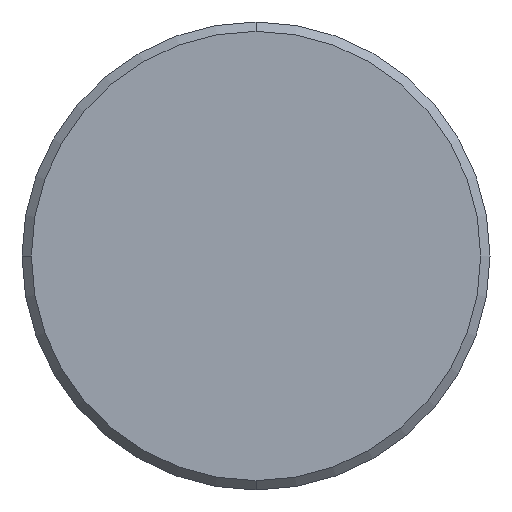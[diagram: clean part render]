
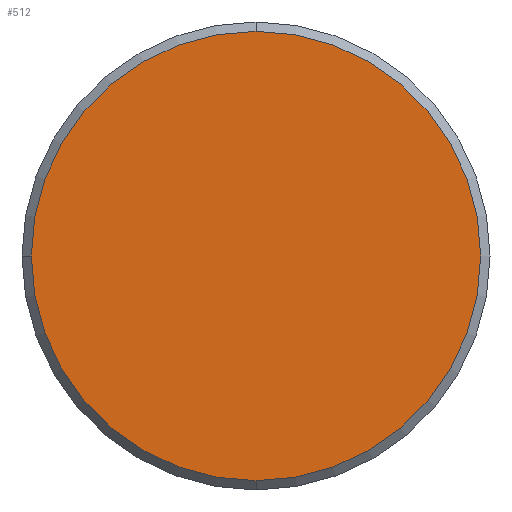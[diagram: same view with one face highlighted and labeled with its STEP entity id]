
A CAD part, left-side view. The second image highlights one B-rep face of the part: STEP entity #512.
In plain terms, the highlighted planar face has unit normal (-1, 0, 0).
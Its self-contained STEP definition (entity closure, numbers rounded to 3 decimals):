
#157 = VERTEX_POINT ( 'NONE', #1319 ) ;
#183 = VERTEX_POINT ( 'NONE', #1285 ) ;
#202 = EDGE_LOOP ( 'NONE', ( #1151, #1160, #1156 ) ) ;
#260 = VERTEX_POINT ( 'NONE', #350 ) ;
#350 = CARTESIAN_POINT ( 'NONE',  ( 0., 12., 0. ) ) ;
#512 = ADVANCED_FACE ( 'NONE', ( #1439 ), #1470, .F. ) ;
#546 = AXIS2_PLACEMENT_3D ( 'NONE', #1473, #1484, #1503 ) ;
#590 = EDGE_CURVE ( 'NONE', #157, #183, #903, .T. ) ;
#605 = EDGE_CURVE ( 'NONE', #260, #157, #902, .T. ) ;
#673 = EDGE_CURVE ( 'NONE', #183, #260, #894, .T. ) ;
#733 = CARTESIAN_POINT ( 'NONE',  ( 0., 0., 0. ) ) ;
#734 = DIRECTION ( 'NONE',  ( 1., 0., 0. ) ) ;
#735 = DIRECTION ( 'NONE',  ( 0., 0., -1. ) ) ;
#780 = CARTESIAN_POINT ( 'NONE',  ( 0., 0., 0. ) ) ;
#781 = DIRECTION ( 'NONE',  ( 1., 0., 0. ) ) ;
#782 = DIRECTION ( 'NONE',  ( 0., 1., 0. ) ) ;
#894 = CIRCLE ( 'NONE', #895, 12. ) ;
#895 = AXIS2_PLACEMENT_3D ( 'NONE', #1080, #1081, #1082 ) ;
#901 = AXIS2_PLACEMENT_3D ( 'NONE', #780, #781, #782 ) ;
#902 = CIRCLE ( 'NONE', #901, 12. ) ;
#903 = CIRCLE ( 'NONE', #904, 12. ) ;
#904 = AXIS2_PLACEMENT_3D ( 'NONE', #733, #734, #735 ) ;
#1080 = CARTESIAN_POINT ( 'NONE',  ( 0., 0., 0. ) ) ;
#1081 = DIRECTION ( 'NONE',  ( 1., 0., 0. ) ) ;
#1082 = DIRECTION ( 'NONE',  ( 0., 1., 0. ) ) ;
#1151 = ORIENTED_EDGE ( 'NONE', *, *, #590, .F. ) ;
#1156 = ORIENTED_EDGE ( 'NONE', *, *, #673, .F. ) ;
#1160 = ORIENTED_EDGE ( 'NONE', *, *, #605, .F. ) ;
#1285 = CARTESIAN_POINT ( 'NONE',  ( 0., 0., -12. ) ) ;
#1319 = CARTESIAN_POINT ( 'NONE',  ( 0., 0., 12. ) ) ;
#1439 = FACE_OUTER_BOUND ( 'NONE', #202, .T. ) ;
#1470 = PLANE ( 'NONE',  #546 ) ;
#1473 = CARTESIAN_POINT ( 'NONE',  ( 0., -12.65, 12.65 ) ) ;
#1484 = DIRECTION ( 'NONE',  ( 1., 0., 0. ) ) ;
#1503 = DIRECTION ( 'NONE',  ( 0., 0., -1. ) ) ;
